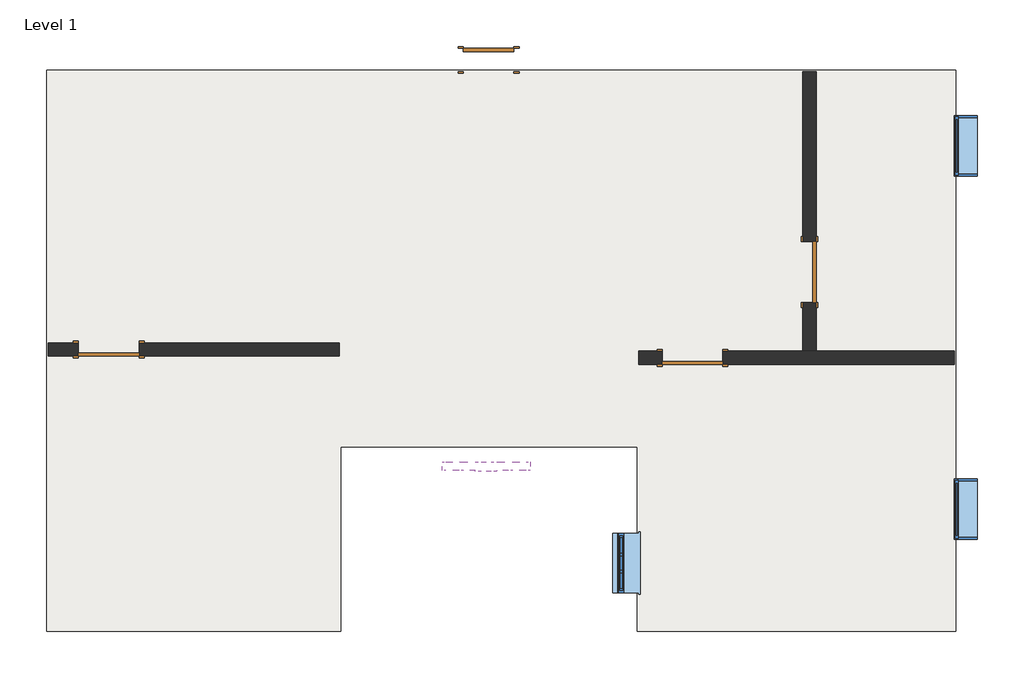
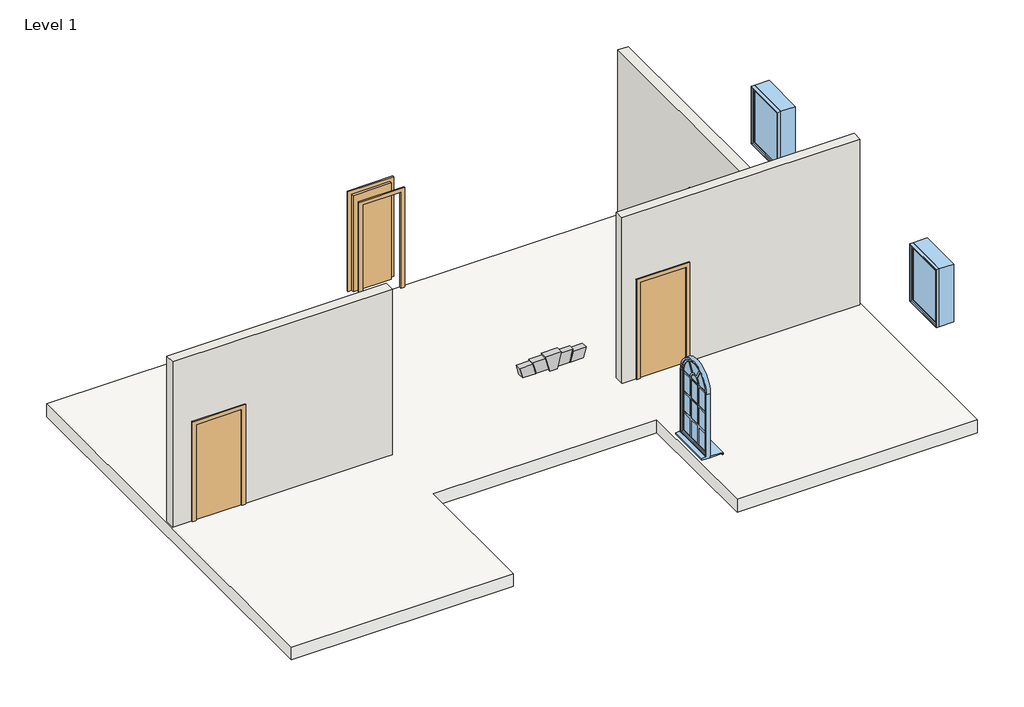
# One storey: 4 doors, 3 walls, 3 windows, 1 proxy, 1 slab.
"""IFC4 building model written with IfcOpenShell, lengths in millimetres."""

from ifc_helpers import new_model, si_unit, frame, origin, place, context, project, spatial, polyline, outline, extrude, faceted_brep, transform, mapped, element, save
from components import proxy_125_x_215mm_deep_bb79ed5a, door_c5eb6496, door_4f2f89b6, window_15c49d37, uk_mdrn_arched_head_1_uk_mdrn_arched_head_1_e3e941a3

model = new_model("IFC4")

# Units and contexts
model_context = context("Model", 3, world=origin())
ifc_project = project(units=[si_unit("LENGTHUNIT", "METRE", prefix="MILLI")], contexts=[model_context])

# Site, building, storey
site = spatial("IfcSite", under=ifc_project)
building = spatial("IfcBuilding", under=site)
storey = spatial("IfcBuildingStorey", under=building, Name="Level 1", Elevation=914.4)

# Proxy
placement = place(None, origin())
proxy_125_x_215mm_deep_shape = proxy_125_x_215mm_deep_bb79ed5a(model_context)
element("IfcBuildingElementProxy", 1, Name="UK_Stone Lintol - Type C : 125 x 215mm Deep", ObjectType="UK_Stone Lintol - Type C : 125 x 215mm Deep", at=placement, inside=storey, context=model_context, shape_type="MappedRepresentation", body=[
    mapped(proxy_125_x_215mm_deep_shape, transform((-11551.1325591, 6731.4668482, 706.231944), x_axis=(-1.0, 0.0, 0.0), y_axis=(0.0, -1.0, 0.0), z_axis=(0.0, 0.0, 1.0))),
])

# Doors
door_shape = door_c5eb6496(model_context)
element("IfcDoor", 2, ObjectType="Single-Flush : 30\" x 80\"", at=placement, inside=storey, context=model_context, shape_type="MappedRepresentation", body=[
    mapped(door_shape, transform((-11673.3810809, 12739.4819585, 711.2), x_axis=(1.0, 0.0, 0.0), y_axis=(0.0, 1.0, 0.0), z_axis=(0.0, 0.0, 1.0))),
])
door_2_shape = door_4f2f89b6(model_context)
element("IfcDoor", 3, ObjectType="Single-Flush : 36\" x 80\"", at=placement, inside=storey, context=model_context, shape_type="MappedRepresentation", body=[
    mapped(door_2_shape, transform((-17406.0309015, 8366.5370306, 711.2), x_axis=(-1.0, 0.0, 0.0), y_axis=(0.0, -1.0, 0.0), z_axis=(0.0, 0.0, 1.0))),
])
element("IfcDoor", 4, ObjectType="Single-Flush : 36\" x 80\"", at=placement, inside=storey, context=model_context, shape_type="MappedRepresentation", body=[
    mapped(door_2_shape, transform((-8598.4024004, 8239.7774351, 711.2), x_axis=(-1.0, 0.0, 0.0), y_axis=(0.0, -1.0, 0.0), z_axis=(0.0, 0.0, 1.0))),
])
element("IfcDoor", 5, ObjectType="Single-Flush : 36\" x 80\"", at=placement, inside=storey, context=model_context, shape_type="MappedRepresentation", body=[
    mapped(door_2_shape, transform((-6834.0706591, 9535.1774351, 711.2), x_axis=(0.0, -1.0, 0.0), y_axis=(1.0, 0.0, 0.0), z_axis=(0.0, 0.0, 1.0))),
])

# Slab
element("IfcSlab", 6, ObjectType="Wood Joist 10\" - Ceramic Tile", at=placement, inside=storey, context=model_context, shape_type="SweptSolid", body=[
    extrude(outline(polyline([(-18344.2434015, 12587.0819585), (-4628.2434015, 12587.0819585), (-4628.2434015, 4111.0823798), (-9435.0149004, 4111.0823798), (-9435.0149004, 6895.1649351), (-13905.4149004, 6895.1649351), (-13905.4149004, 4111.0823798), (-18344.2434015, 4111.0823798), (-18344.2434015, 12587.0819585)])), frame((0.0, 0.0, 438.15), z_axis=(0.0, 0.0, 1.0), x_axis=(1.0, 0.0, 0.0)), (0.0, 0.0, 1.0), 273.05),
])

# Walls
element("IfcWall", 7, ObjectType="Generic - 8\"", at=placement, inside=storey, context=model_context, shape_type="SweptSolid", body=[
    extrude(outline(polyline([(711.2, -18320.4309015), (711.2, -17863.2309015), (2743.2, -17863.2309015), (2743.2, -16948.8309015), (711.2, -16948.8309015), (711.2, -13929.2274004), (4212.4585686, -13929.2274004), (4212.4585686, -18320.4309015), (711.2, -18320.4309015)])), frame((0.0, 8264.9370306, 0.0), z_axis=(0.0, 1.0, 0.0), x_axis=(0.0, 0.0, 1.0)), (0.0, 0.0, 1.0), 203.2),
])
element("IfcWall", 8, ObjectType="Generic - 8\"", at=placement, inside=storey, context=model_context, shape_type="Brep", body=[
    faceted_brep([(-4652.0559015, 8138.1774351, 4212.4585686), (-9411.2024004, 8138.1774351, 4212.4585686), (-9411.2024004, 8138.1774351, 711.2), (-9055.6024004, 8138.1774351, 711.2), (-9055.6024004, 8138.1774351, 2743.2), (-8141.2024004, 8138.1774351, 2743.2), (-8141.2024004, 8138.1774351, 711.2), (-4652.0559015, 8138.1774351, 711.2), (-9411.2024004, 8341.3774351, 4212.4585686), (-6935.6706591, 8341.3774351, 4212.4585686), (-6732.4706591, 8341.3774351, 4212.4585686), (-4652.0559015, 8341.3774351, 4212.4585686), (-4652.0559015, 8341.3774351, 711.2), (-6732.4706591, 8341.3774351, 711.2), (-6935.6706591, 8341.3774351, 711.2), (-8141.2024004, 8341.3774351, 711.2), (-8141.2024004, 8341.3774351, 2743.2), (-9055.6024004, 8341.3774351, 2743.2), (-9055.6024004, 8341.3774351, 711.2), (-9411.2024004, 8341.3774351, 711.2)], [[[0, 1, 2, 3, 4, 5, 6, 7]], [[8, 9, 10, 11, 12, 13, 14, 15, 16, 17, 18, 19]], [[12, 7, 6, 15, 14, 13]], [[2, 19, 18, 3]], [[1, 0, 11, 10, 9, 8]], [[0, 7, 12, 11]], [[2, 1, 8, 19]], [[17, 4, 3, 18]], [[4, 17, 16, 5]], [[5, 16, 15, 6]]]),
])
element("IfcWall", 9, ObjectType="Generic - 8\"", at=placement, inside=storey, context=model_context, shape_type="SweptSolid", body=[
    extrude(outline(polyline([(9077.9774351, 2743.2), (9077.9774351, 711.2), (8341.3774351, 711.2), (8341.3774351, 4212.4585686), (12563.2694585, 4212.4585686), (12563.2694585, 711.2), (9992.3774351, 711.2), (9992.3774351, 2743.2), (9077.9774351, 2743.2)])), frame((-6935.6706591, 0.0, 0.0), z_axis=(1.0, 0.0, 0.0), x_axis=(0.0, 1.0, 0.0)), (0.0, 0.0, 1.0), 203.2),
])

# Windows
window_shape = window_15c49d37(model_context)
element("IfcWindow", 10, ObjectType="Fixed : 36\" x 48\"", at=placement, inside=storey, context=model_context, shape_type="MappedRepresentation", body=[
    mapped(window_shape, transform((-4475.8434015, 5991.8774351, 914.4), x_axis=(0.0, 1.0, 0.0), y_axis=(-1.0, 0.0, 0.0), z_axis=(0.0, 0.0, 1.0))),
])
element("IfcWindow", 11, ObjectType="Fixed : 36\" x 48\"", at=placement, inside=storey, context=model_context, shape_type="MappedRepresentation", body=[
    mapped(window_shape, transform((-4475.8434015, 11478.2774351, 914.4), x_axis=(0.0, 1.0, 0.0), y_axis=(-1.0, 0.0, 0.0), z_axis=(0.0, 0.0, 1.0))),
])
uk_mdrn_arched_head_1_uk_mdrn_arched_head_1_shape = uk_mdrn_arched_head_1_uk_mdrn_arched_head_1_e3e941a3(model_context)
element("IfcWindow", 12, ObjectType="UK_Mdrn Arched Head 1 : UK_Mdrn Arched Head 1", at=placement, inside=storey, context=model_context, shape_type="MappedRepresentation", body=[
    mapped(uk_mdrn_arched_head_1_uk_mdrn_arched_head_1_shape, transform((-9578.9583326, 5427.0194631, 555.0), x_axis=(0.0, 1.0, 0.0), y_axis=(-1.0, 0.0, 0.0), z_axis=(0.0, 0.0, 1.0))),
])

save(model, "model.ifc")
